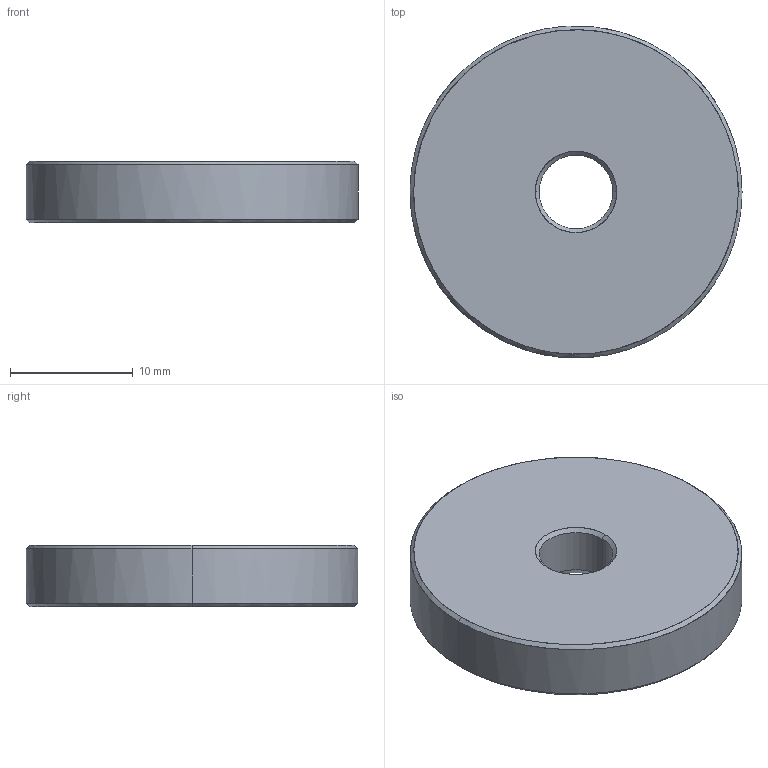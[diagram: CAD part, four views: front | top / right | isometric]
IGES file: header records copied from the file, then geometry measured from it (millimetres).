
Global section: file name: E:\UnigraphicsGraphicData\MISUMI_PRESS-PARTS\IGES\3d_r10-27_00106_r00.igs; native system: NX V5.0; preprocessor: UGS NX IGES V5.0; author: MISUMI; date: 20110105.162333; units: millimetre
Bounding box: 27 x 26.96 x 5 mm (x, y, z)
Surface area: 1563.9 mm2 (no closed solid volume)
Topology: 0 solids, 0 shells, 14 faces, 96 edges, 96 vertices
Faces by surface type: bspline 14
